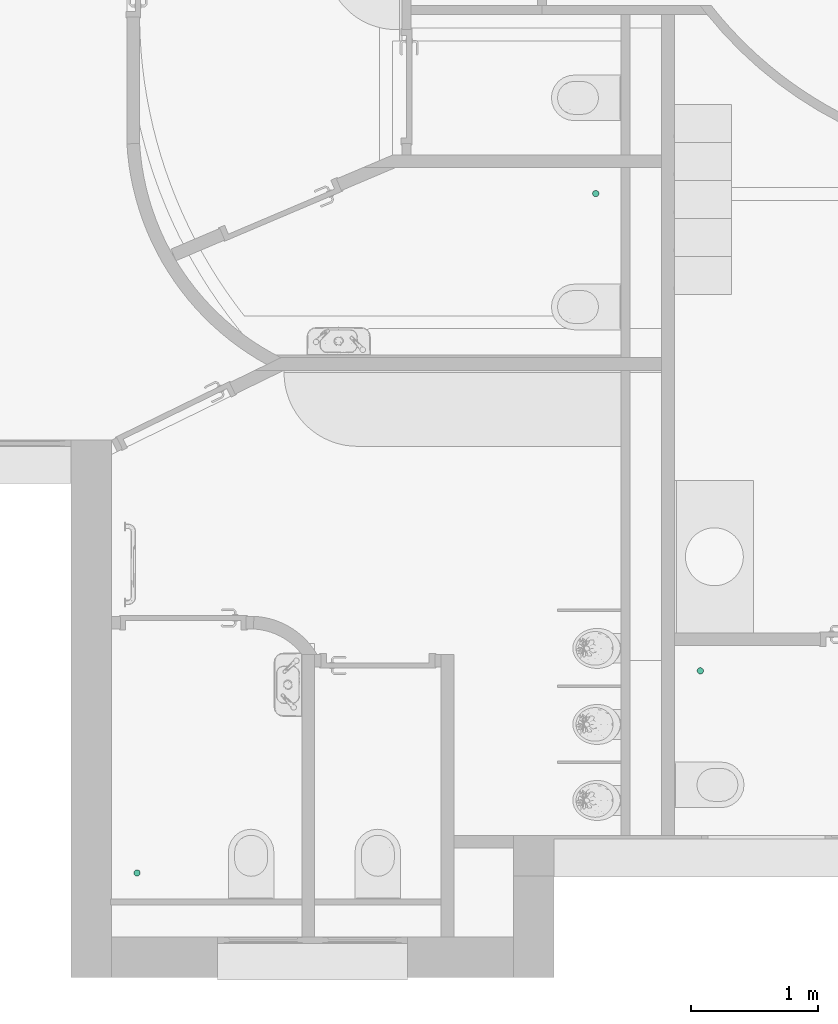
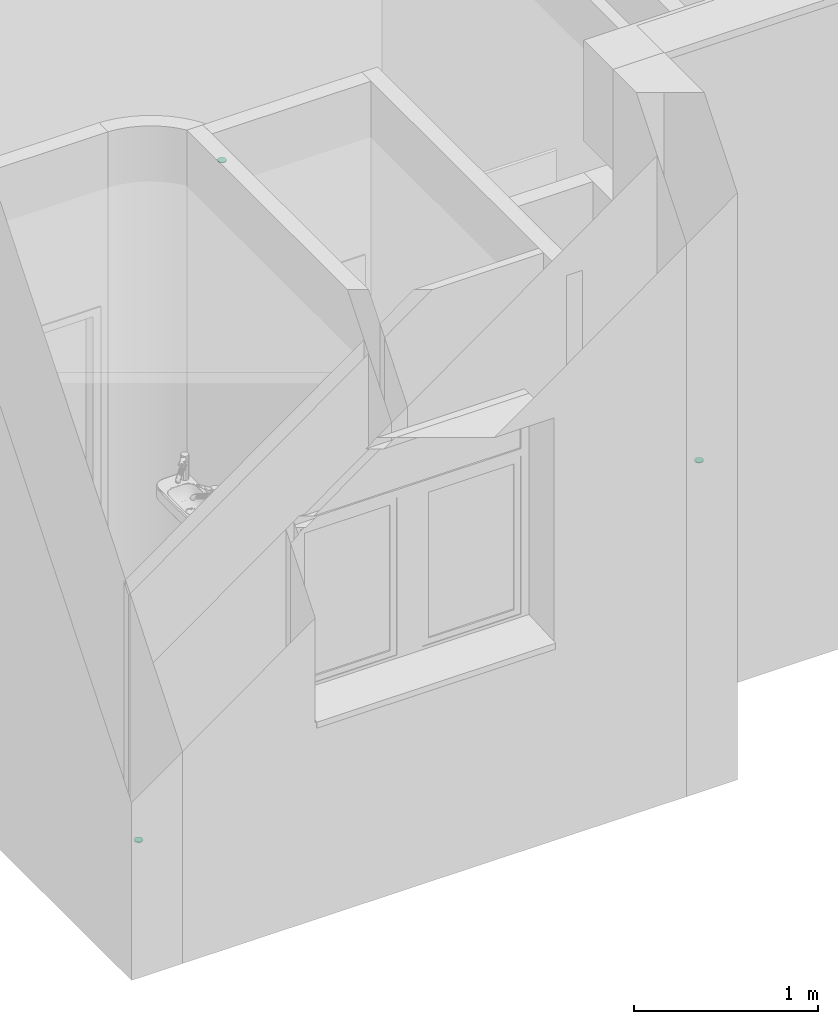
# One storey, part 113 of 137: 3 flow terminals.
"""IFC2X3 building model written with IfcOpenShell, lengths in centimetres."""

import ifcopenshell
import ifcopenshell.guid

model = None  # the IFC model being written
_history = None  # IfcOwnerHistory: only IFC2X3 demands one
_inside = {}  # id of a spatial element -> (the spatial element, [elements in it])
_under = {}  # id of a project, library or spatial element -> (it, [spatial elements below it])
_declared = {}  # id of a project -> (the project, [libraries it declares])
_typed = {}  # id of a type object -> (the type object, [elements of that type])
_made_of = {}  # id of a material, layer set ... -> (it, [elements and type objects made of it])


def new_model(schema):
    """Start an empty IFC model of exactly this schema.

    Asked for "IFC4X3", IfcOpenShell would pick the latest addendum, in which some entities
    have other attributes; the version numbers below select the first issue.
    IFC2X3 requires an IfcOwnerHistory on every rooted entity: one is made here for all.
    """
    global model, _history
    if schema == "IFC4X3":
        model = ifcopenshell.file(schema_version=(4, 3, 0, 0))
    else:
        model = ifcopenshell.file(schema=schema)
    _inside.clear()
    _under.clear()
    _declared.clear()
    _typed.clear()
    _made_of.clear()
    _history = None
    if model.schema == "IFC2X3":
        org = make("IfcOrganization", Name="unknown")
        user = make(
            "IfcPersonAndOrganization",
            ThePerson=make("IfcPerson", FamilyName="unknown"),
            TheOrganization=org,
        )
        app = make(
            "IfcApplication",
            ApplicationDeveloper=org,
            Version="unknown",
            ApplicationFullName="unknown",
            ApplicationIdentifier="unknown",
        )
        _history = make(
            "IfcOwnerHistory",
            OwningUser=user,
            OwningApplication=app,
            ChangeAction="ADDED",
            CreationDate=0,
        )
    return model


def make(cls, **values):
    """One entity of the class cls with the attributes given. An attribute that is None is left unset."""
    return model.create_entity(
        cls, **{name: value for name, value in values.items() if value is not None}
    )


def entity(cls, *values):
    """Any entity or typed value of the class cls, its attributes in the order of the schema. None: left unset."""
    e = model.create_entity(cls)
    for i, value in enumerate(values):
        if value is not None:
            e[i] = value
    return e


def rooted(cls, **values):
    """An entity with a GlobalId (a new one), such as an element, a storey or a relation."""
    return make(cls, GlobalId=ifcopenshell.guid.new(), OwnerHistory=_history, **values)


def si_unit(unit_type, name, prefix=None):
    """IfcSIUnit, for example si_unit("LENGTHUNIT", "METRE", prefix="MILLI")."""
    return make("IfcSIUnit", UnitType=unit_type, Prefix=prefix, Name=name)


def converted_unit(unit_type, name, factor, base, dimensions=None, offset=None):
    """IfcConversionBasedUnit, such as the inch: factor (a typed value) times the base unit."""
    return make(
        "IfcConversionBasedUnit"
        if offset is None
        else "IfcConversionBasedUnitWithOffset",
        ConversionOffset=offset,
        Dimensions=None
        if dimensions is None
        else entity("IfcDimensionalExponents", *dimensions),
        UnitType=unit_type,
        Name=name,
        ConversionFactor=make(
            "IfcMeasureWithUnit", ValueComponent=factor, UnitComponent=base
        ),
    )


def derived_unit(unit_type, elements):
    """IfcDerivedUnit: a product of units, each with its exponent."""
    return make(
        "IfcDerivedUnit",
        Elements=[
            make("IfcDerivedUnitElement", Unit=unit, Exponent=power)
            for unit, power in elements
        ],
        UnitType=unit_type,
    )


def assignment(units):
    """IfcUnitAssignment: the units of a project."""
    return None if units is None else make("IfcUnitAssignment", Units=units)


def point(xyz):
    """IfcCartesianPoint."""
    return None if xyz is None else make("IfcCartesianPoint", Coordinates=xyz)


def direction(xyz):
    """IfcDirection."""
    return None if xyz is None else make("IfcDirection", DirectionRatios=xyz)


def frame(location, z_axis=None, x_axis=None):
    """IfcAxis2Placement3D, a coordinate frame: its origin and axes. An axis left out is left unset."""
    return make(
        "IfcAxis2Placement3D",
        Location=point(location),
        Axis=direction(z_axis),
        RefDirection=direction(x_axis),
    )


def frame_2d(location, x_axis=None):
    """IfcAxis2Placement2D, a coordinate frame in the plane: its origin and x axis."""
    return make(
        "IfcAxis2Placement2D", Location=point(location), RefDirection=direction(x_axis)
    )


def origin():
    """The frame at (0, 0, 0) with its axes left unset."""
    return frame((0.0, 0.0, 0.0))


def place(relative_to, where):
    """IfcLocalPlacement: puts the frame where relative to a parent placement (None: the world)."""
    return make(
        "IfcLocalPlacement", PlacementRelTo=relative_to, RelativePlacement=where
    )


def context(
    kind, dimensions, precision=None, world=None, true_north=None, identifier=None
):
    """IfcGeometricRepresentationContext, for example the 3D "Model" context."""
    return make(
        "IfcGeometricRepresentationContext",
        ContextIdentifier=identifier,
        ContextType=kind,
        CoordinateSpaceDimension=dimensions,
        Precision=precision,
        WorldCoordinateSystem=world,
        TrueNorth=true_north,
    )


def subcontext(parent, identifier, kind, view, scale=None):
    """IfcGeometricRepresentationSubContext, for example "Body" below "Model"."""
    return make(
        "IfcGeometricRepresentationSubContext",
        ContextIdentifier=identifier,
        ContextType=kind,
        ParentContext=parent,
        TargetScale=scale,
        TargetView=view,
    )


def project(units=None, contexts=None):
    """IfcProject with its units and contexts."""
    return rooted(
        "IfcProject",
        Name="project",
        RepresentationContexts=contexts,
        UnitsInContext=assignment(units),
    )


def spatial(cls, under=None, at=None, **own):
    """A site, building, storey or space (cls), placed at a placement, below another one or the project."""
    s = rooted(cls, ObjectPlacement=at, **own)
    if under is not None:
        _under.setdefault(under.id(), (under, []))[1].append(s)
    return s


def profile(cls, at=None, kind="AREA", **sizes):
    """A parametric profile (cls). Its sizes go by their IFC names, for example OverallWidth=200.0."""
    return make(cls, ProfileType=kind, Position=at, **sizes)


def circle(**sizes):
    """IfcCircleProfileDef."""
    return profile("IfcCircleProfileDef", **sizes)


def extrude(swept, where, along, depth):
    """IfcExtrudedAreaSolid: the profile swept, set in the frame where, extruded along a direction by depth."""
    return make(
        "IfcExtrudedAreaSolid",
        SweptArea=swept,
        Position=where,
        ExtrudedDirection=direction(along),
        Depth=depth,
    )


def shape(context_of_items, identifier, shape_type, items):
    """IfcShapeRepresentation: the items that make up one representation, for example the "Body"."""
    return make(
        "IfcShapeRepresentation",
        ContextOfItems=context_of_items,
        RepresentationIdentifier=identifier,
        RepresentationType=shape_type,
        Items=items,
    )


def source(mapping_origin, context_of_items, identifier, shape_type, items):
    """IfcRepresentationMap: a shape defined once, which mapped items show again and again."""
    return make(
        "IfcRepresentationMap",
        MappingOrigin=mapping_origin,
        MappedRepresentation=shape(context_of_items, identifier, shape_type, items),
    )


def transform(
    local_origin,
    x_axis=None,
    y_axis=None,
    z_axis=None,
    scale=None,
    scale2=None,
    scale3=None,
    uniform=True,
):
    """IfcCartesianTransformationOperator3D, or its non-uniform kind. x_axis, y_axis, z_axis: its Axis1, 2, 3."""
    if uniform:
        return make(
            "IfcCartesianTransformationOperator3D",
            Axis1=direction(x_axis),
            Axis2=direction(y_axis),
            LocalOrigin=point(local_origin),
            Scale=scale,
            Axis3=direction(z_axis),
        )
    return make(
        "IfcCartesianTransformationOperator3DnonUniform",
        Axis1=direction(x_axis),
        Axis2=direction(y_axis),
        LocalOrigin=point(local_origin),
        Scale=scale,
        Axis3=direction(z_axis),
        Scale2=scale2,
        Scale3=scale3,
    )


def mapped(mapping_source, mapping_target):
    """IfcMappedItem: shows the shape of a source again, moved by a transform."""
    return make(
        "IfcMappedItem", MappingSource=mapping_source, MappingTarget=mapping_target
    )


def made_of(thing, what):
    """Note that an element or type object is made of a material, layer set ...; save() writes the relation."""
    if what is not None:
        _made_of.setdefault(what.id(), (what, []))[1].append(thing)
    return thing


def element(
    cls,
    number,
    at=None,
    inside=None,
    cuts=None,
    type_object=None,
    material=None,
    context=None,
    identifier="Body",
    shape_type=None,
    held_by="IfcProductDefinitionShape",
    body=None,
    shapes=None,
    **own,
):
    """One element of the class cls, such as IfcWall. Its Tag is "e" and its number.

    at: its placement. inside: the storey or other place that contains it. cuts: it is an
    opening in that element (IfcRelVoidsElement). A single representation is given by context,
    identifier, shape_type and body (its items); several are given by shapes. held_by: the class
    of the entity that holds the representations. save() writes the other relations.
    """
    e = rooted(cls, Tag="e%d" % number, ObjectPlacement=at, **own)
    if body is not None:
        shapes = [shape(context, identifier, shape_type, body)]
    if shapes is not None:
        e.Representation = make(held_by, Representations=shapes)
    if inside is not None:
        _inside.setdefault(inside.id(), (inside, []))[1].append(e)
    if cuts is not None:
        rooted(
            "IfcRelVoidsElement", RelatingBuildingElement=cuts, RelatedOpeningElement=e
        )
    if type_object is not None:
        _typed.setdefault(type_object.id(), (type_object, []))[1].append(e)
    return made_of(e, material)


def aggregate(whole, parts):
    """IfcRelAggregates: a whole, such as a stair, and the parts it consists of."""
    return rooted("IfcRelAggregates", RelatingObject=whole, RelatedObjects=parts)


def save(model, path):
    """Write the relations noted so far, then the file.

    IfcRelAggregates (storeys below a building ...), IfcRelContainedInSpatialStructure (elements
    in a storey), IfcRelDefinesByType, IfcRelAssociatesMaterial and IfcRelDeclares: one each for
    every whole, place, type object, material and project.
    """
    for whole, parts in _under.values():
        aggregate(whole, parts)
    for where, things in _inside.values():
        rooted(
            "IfcRelContainedInSpatialStructure",
            RelatedElements=things,
            RelatingStructure=where,
        )
    for kind, things in _typed.values():
        rooted("IfcRelDefinesByType", RelatedObjects=things, RelatingType=kind)
    for what, things in _made_of.values():
        rooted("IfcRelAssociatesMaterial", RelatedObjects=things, RelatingMaterial=what)
    for by, libraries in _declared.values():
        rooted("IfcRelDeclares", RelatingContext=by, RelatedDefinitions=libraries)
    model.write(path)


model = new_model("IFC2X3")

# Units and contexts
model_context = context("Model", 3, precision=0.001, world=origin(), true_north=direction((6.12303176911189e-17, 1.0)))
body_context = subcontext(model_context, "Body", "Model", "MODEL_VIEW")
ifc_project = project(units=[si_unit("LENGTHUNIT", "METRE", prefix="CENTI"), si_unit("AREAUNIT", "SQUARE_METRE"), si_unit("VOLUMEUNIT", "CUBIC_METRE"), converted_unit("PLANEANGLEUNIT", "DEGREE", entity("IfcRatioMeasure", 0.0174532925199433), si_unit("PLANEANGLEUNIT", "RADIAN"), dimensions=[0, 0, 0, 0, 0, 0, 0]), si_unit("MASSUNIT", "GRAM", prefix="KILO"), si_unit("TIMEUNIT", "SECOND"), si_unit("FREQUENCYUNIT", "HERTZ"), si_unit("THERMODYNAMICTEMPERATUREUNIT", "DEGREE_CELSIUS"), derived_unit("THERMALTRANSMITTANCEUNIT", [(si_unit("MASSUNIT", "GRAM", prefix="KILO"), 1), (si_unit("THERMODYNAMICTEMPERATUREUNIT", "KELVIN"), -1), (si_unit("TIMEUNIT", "SECOND"), -3)]), derived_unit("VOLUMETRICFLOWRATEUNIT", [(si_unit("LENGTHUNIT", "METRE"), 3), (si_unit("TIMEUNIT", "SECOND"), -1)]), si_unit("ELECTRICCURRENTUNIT", "AMPERE"), si_unit("ELECTRICVOLTAGEUNIT", "VOLT"), si_unit("POWERUNIT", "WATT"), si_unit("FORCEUNIT", "NEWTON", prefix="KILO"), si_unit("ILLUMINANCEUNIT", "LUX"), si_unit("LUMINOUSFLUXUNIT", "LUMEN"), si_unit("LUMINOUSINTENSITYUNIT", "CANDELA"), derived_unit("USERDEFINED", [(si_unit("MASSUNIT", "GRAM", prefix="KILO"), -1), (si_unit("LENGTHUNIT", "METRE"), -2), (si_unit("TIMEUNIT", "SECOND"), 3), (si_unit("LUMINOUSFLUXUNIT", "LUMEN"), 1)]), derived_unit("LINEARVELOCITYUNIT", [(si_unit("LENGTHUNIT", "METRE"), 1), (si_unit("TIMEUNIT", "SECOND"), -1)]), si_unit("PRESSUREUNIT", "PASCAL"), derived_unit("USERDEFINED", [(si_unit("LENGTHUNIT", "METRE"), -2), (si_unit("MASSUNIT", "GRAM", prefix="KILO"), 1), (si_unit("TIMEUNIT", "SECOND"), -2)])], contexts=[model_context])

# Site, building, storey, space
site_placement = place(None, frame((8.62739174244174, -249.285249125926, 0.0)))
site = spatial("IfcSite", under=ifc_project, at=site_placement, Name="Default", CompositionType="ELEMENT")
building_placement = place(site_placement, origin())
building = spatial("IfcBuilding", under=site, at=building_placement, CompositionType="ELEMENT")
storey_placement = place(building_placement, origin())
storey = spatial("IfcBuildingStorey", under=building, at=storey_placement, Name="RDC", CompositionType="ELEMENT", Elevation=-8.82465566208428e-11)
space_1_placement = place(storey_placement, origin())
space_1 = spatial("IfcSpace", under=storey, at=space_1_placement, Name="043", CompositionType="ELEMENT", InteriorOrExteriorSpace="INTERNAL")

# Flow terminal
shared_shape = source(origin(), body_context, "Body", "SweptSolid", [
    extrude(circle(Radius=2.5, at=frame_2d((0.0, -3.38395977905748e-15), x_axis=(1.0, 0.0))), frame((20.5000000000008, -20.0, 0.0)), (0.0, 0.0, 1.0), 0.5),
])
flow_terminal_1_placement = place(space_1_placement, frame((2766.90482779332, 53.9802080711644, 0.0)))
element("IfcFlowTerminal", 1, at=flow_terminal_1_placement, inside=space_1, Name="Receveur de douche:1", ObjectType="1", context=body_context, shape_type="MappedRepresentation", body=[
    mapped(shared_shape, transform((0.0, 0.0, 0.0), scale=1.0)),
])

# Space
space_2_placement = place(storey_placement, origin())
space_2 = spatial("IfcSpace", under=storey, at=space_2_placement, Name="082", CompositionType="ELEMENT", InteriorOrExteriorSpace="INTERNAL")

# Flow terminal
flow_terminal_2_placement = place(space_2_placement, frame((2322.9048278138, -146.019791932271, 0.0), z_axis=(0.0, 0.0, 1.0), x_axis=(0.0, 1.0, 0.0)))
element("IfcFlowTerminal", 2, at=flow_terminal_2_placement, inside=space_2, Name="Receveur de douche:1", ObjectType="1", context=body_context, shape_type="MappedRepresentation", body=[
    mapped(shared_shape, transform((0.0, 0.0, 0.0), scale=1.0)),
])

# Space
space_3_placement = place(storey_placement, origin())
space_3 = spatial("IfcSpace", under=storey, at=space_3_placement, Name="084", CompositionType="ELEMENT", InteriorOrExteriorSpace="INTERNAL")

# Flow terminal
flow_terminal_3_placement = place(space_3_placement, frame((2724.90482779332, 431.12856817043, 0.0), z_axis=(0.0, 0.0, 1.0), x_axis=(0.0, -1.0, 0.0)))
element("IfcFlowTerminal", 3, at=flow_terminal_3_placement, inside=space_3, Name="Receveur de douche:1", ObjectType="1", context=body_context, shape_type="MappedRepresentation", body=[
    mapped(shared_shape, transform((0.0, 0.0, 0.0), scale=1.0)),
])

save(model, "model.ifc")
